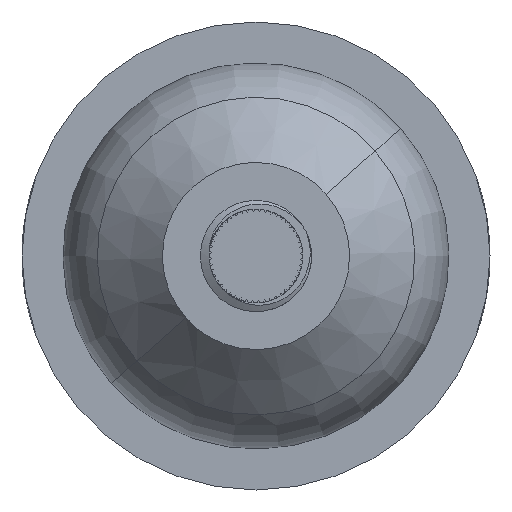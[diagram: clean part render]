
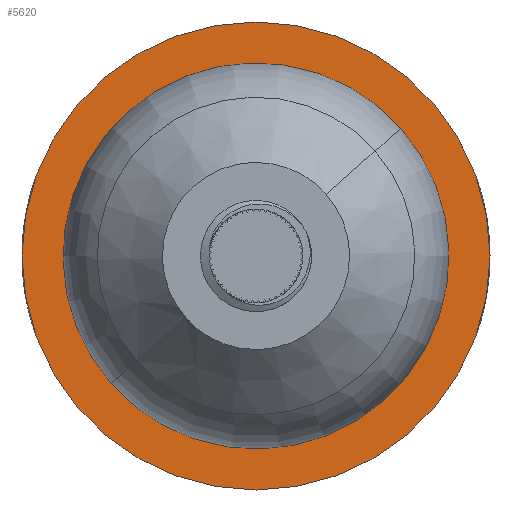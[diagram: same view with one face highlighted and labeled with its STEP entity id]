
A CAD part, front view. The second image highlights one B-rep face of the part: STEP entity #5620.
In plain terms, the highlighted planar face has unit normal (0, -1, 0).
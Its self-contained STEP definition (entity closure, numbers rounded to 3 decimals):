
#3 = DIRECTION ( 'NONE',  ( 0., 1., 0. ) ) ;
#91 = PLANE ( 'NONE',  #6061 ) ;
#171 = AXIS2_PLACEMENT_3D ( 'NONE', #533, #8243, #5685 ) ;
#318 = ORIENTED_EDGE ( 'NONE', *, *, #7931, .F. ) ;
#533 = CARTESIAN_POINT ( 'NONE',  ( 0., 0., 0. ) ) ;
#650 = CARTESIAN_POINT ( 'NONE',  ( 0., 0., 0. ) ) ;
#683 = DIRECTION ( 'NONE',  ( 0., 0., 1. ) ) ;
#1103 = DIRECTION ( 'NONE',  ( 0., 0., 1. ) ) ;
#1440 = CIRCLE ( 'NONE', #171, 20. ) ;
#2331 = CARTESIAN_POINT ( 'NONE',  ( 0., 0., 20. ) ) ;
#2959 = CARTESIAN_POINT ( 'NONE',  ( 0., 0., 0. ) ) ;
#4264 = EDGE_LOOP ( 'NONE', ( #4849, #318 ) ) ;
#4539 = FACE_OUTER_BOUND ( 'NONE', #4264, .T. ) ;
#4849 = ORIENTED_EDGE ( 'NONE', *, *, #5495, .F. ) ;
#4936 = VERTEX_POINT ( 'NONE', #2331 ) ;
#5292 = VERTEX_POINT ( 'NONE', #6014 ) ;
#5495 = EDGE_CURVE ( 'NONE', #5292, #4936, #1440, .T. ) ;
#5620 = ADVANCED_FACE ( 'NONE', ( #4539 ), #91, .F. ) ;
#5685 = DIRECTION ( 'NONE',  ( 0., 0., 1. ) ) ;
#6014 = CARTESIAN_POINT ( 'NONE',  ( 0., 0., -20. ) ) ;
#6061 = AXIS2_PLACEMENT_3D ( 'NONE', #650, #3, #683 ) ;
#6074 = CIRCLE ( 'NONE', #7127, 20. ) ;
#7127 = AXIS2_PLACEMENT_3D ( 'NONE', #2959, #7413, #1103 ) ;
#7413 = DIRECTION ( 'NONE',  ( 0., 1., 0. ) ) ;
#7931 = EDGE_CURVE ( 'NONE', #4936, #5292, #6074, .T. ) ;
#8243 = DIRECTION ( 'NONE',  ( 0., 1., 0. ) ) ;
